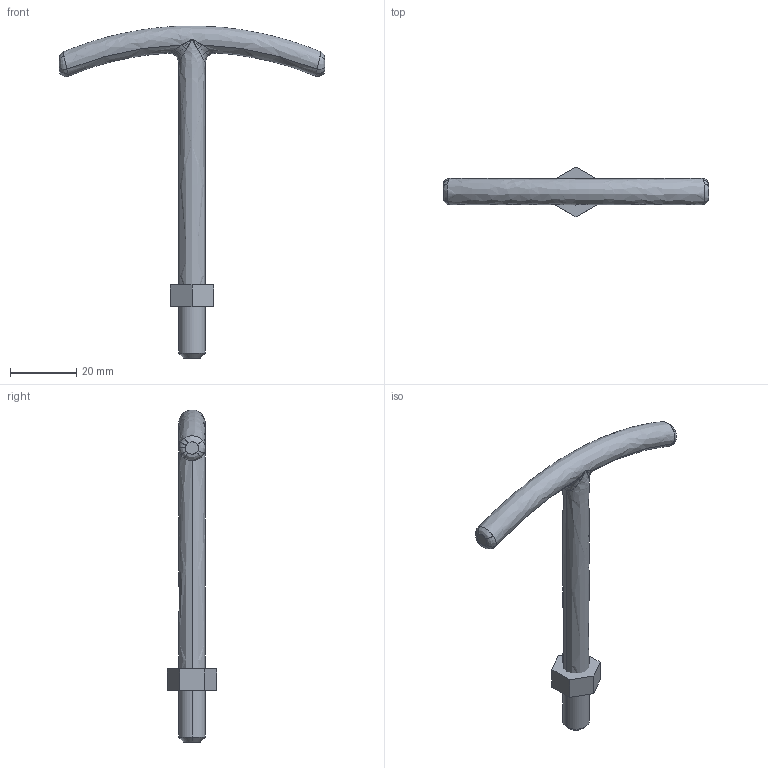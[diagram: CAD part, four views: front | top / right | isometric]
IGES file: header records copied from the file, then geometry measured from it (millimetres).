
Global section: file name: E:\UnigraphicsGraphicData\MISUMI_PRESS-PARTS\IGES\3d_tb8-100_05659_r00.igs; native system: NX V5.0; preprocessor: UGS NX IGES V5.0; author: MISUMI; date: 20110105.163352; units: millimetre
Bounding box: 80 x 15.01 x 99.93 mm (x, y, z)
Surface area: 4970.7 mm2 (no closed solid volume)
Topology: 0 solids, 0 shells, 65 faces, 398 edges, 392 vertices
Faces by surface type: bspline 65
